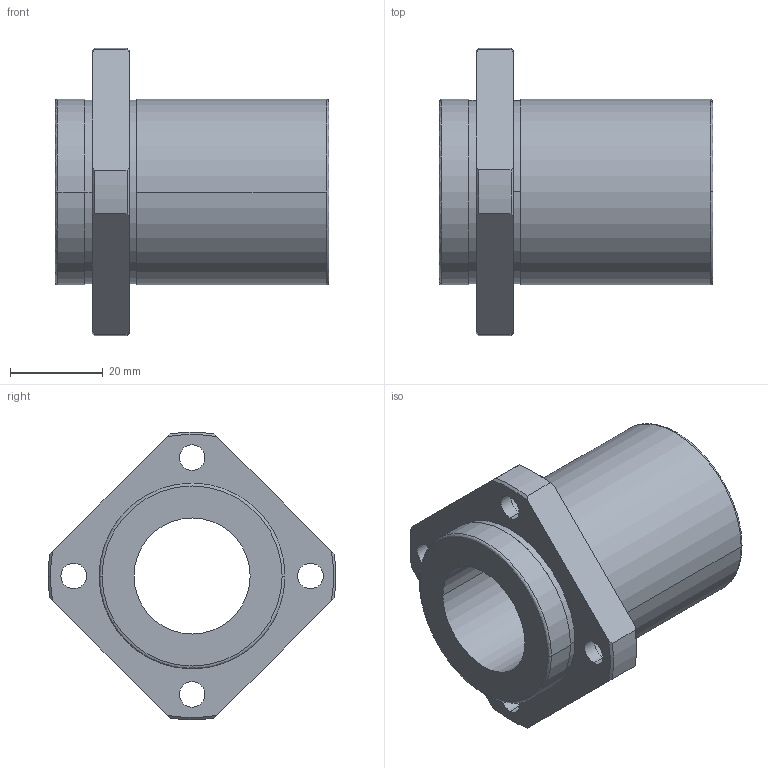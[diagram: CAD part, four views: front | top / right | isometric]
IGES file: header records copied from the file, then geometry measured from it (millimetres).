
Start section: 3D InterOp IGES (Version 21 0 1), Spatial Corp. Copyright (c) 1999-2007.
Global section: file name: NFIS-25VUU.igs; native system: Spatial Corp.; preprocessor: 3D InterOp GENERIC/IGES 3.0; author: Noname; organization: Noname; date: 20220308.112253; units: millimetre
Bounding box: 59 x 61.96 x 61.92 mm (x, y, z)
Surface area: 16994.7 mm2 (no closed solid volume)
Topology: 0 solids, 0 shells, 59 faces, 286 edges, 286 vertices
Faces by surface type: revolution 45, extrusion 14
